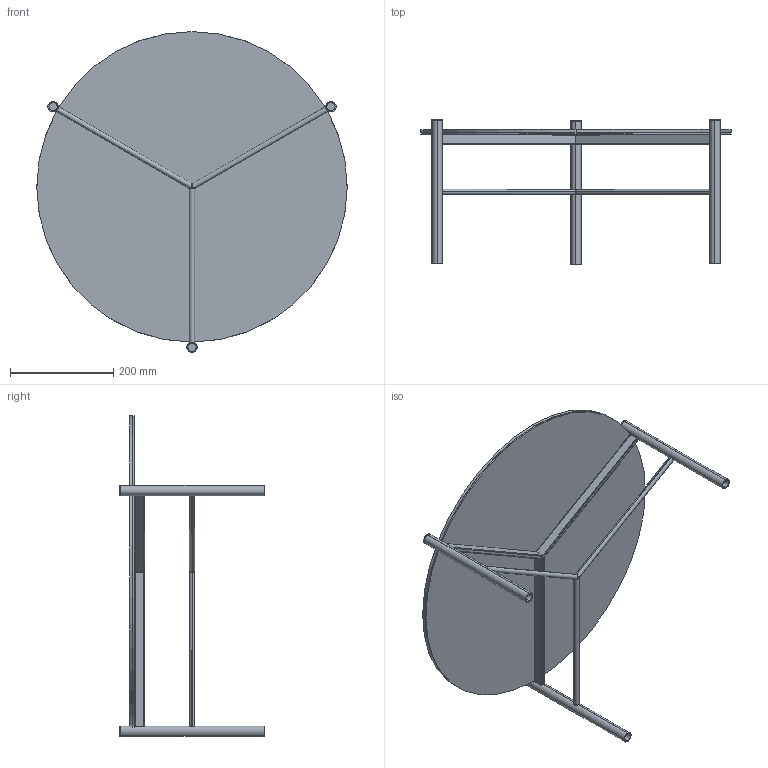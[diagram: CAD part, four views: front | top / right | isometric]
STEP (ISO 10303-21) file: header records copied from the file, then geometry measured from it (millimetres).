
FILE_DESCRIPTION (( 'STEP AP203' ), '1' );
FILE_NAME ('J101G.STEP', '2024-08-06T11:31:22', ( '' ), ( '' ), 'SwSTEP 2.0', 'SolidWorks 2022', '' );
FILE_SCHEMA (( 'CONFIG_CONTROL_DESIGN' ));
Length unit declared in the file: millimetre
Products named in the file (3): JXXXS00000000-00-jack metallo grezzo tutte le misure_J101S00000000-JACK TAVOLINO D.60x26h<A macchina>; C1XCRMXX-00-piani Rotondi Cristallo_C01 D.60cm; J101G
Assembly tree (2 placements, depth 2):
  J101G
    JXXXS00000000-00-jack metallo grezzo tutte le misure_J101S00000000-JACK TAVOLINO D.60x26h<A macchina>
    C1XCRMXX-00-piani Rotondi Cristallo_C01 D.60cm
Bounding box: 600 x 279 x 620.07 mm (x, y, z)
Volume: 2711261.9 mm3; surface area: 1386762.7 mm2
Topology: 14 solids, 14 shells, 125 faces, 293 edges, 194 vertices
Faces by surface type: cylinder 73, plane 52
Entity records: 4516 total; most frequent: CARTESIAN_POINT 1449, ORIENTED_EDGE 586, DIRECTION 541, EDGE_CURVE 293, AXIS2_PLACEMENT_3D 196, VERTEX_POINT 194, LINE 149, VECTOR 149
